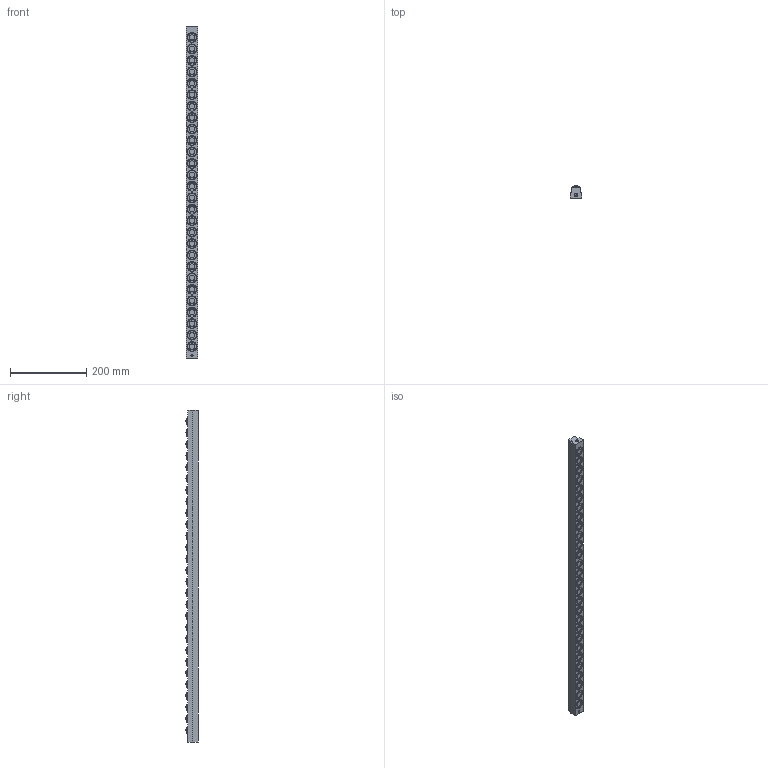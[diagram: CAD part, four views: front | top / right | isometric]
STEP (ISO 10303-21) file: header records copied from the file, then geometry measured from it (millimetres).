
FILE_DESCRIPTION (( 'STEP AP203' ), '1' );
FILE_NAME ('PVL20T-28.STEP', '2016-02-18T07:19:31', ( '' ), ( '' ), 'SwSTEP 2.0', 'SolidWorks 2013', '' );
FILE_SCHEMA (( 'CONFIG_CONTROL_DESIGN' ));
Length unit declared in the file: millimetre
Products named in the file (1): PVL20T-28
Bounding box: 30 x 34 x 870 mm (x, y, z)
Volume: 641276.1 mm3; surface area: 114877.4 mm2
Topology: 1 solids, 1 shells, 806 faces, 1928 edges, 1293 vertices
Faces by surface type: cylinder 454, plane 236, torus 56, sphere 56, cone 4
Entity records: 24195 total; most frequent: DIRECTION 4788, CARTESIAN_POINT 4026, ORIENTED_EDGE 3852, AXIS2_PLACEMENT_3D 2055, EDGE_CURVE 1926, VERTEX_POINT 1293, CIRCLE 1248, EDGE_LOOP 979
